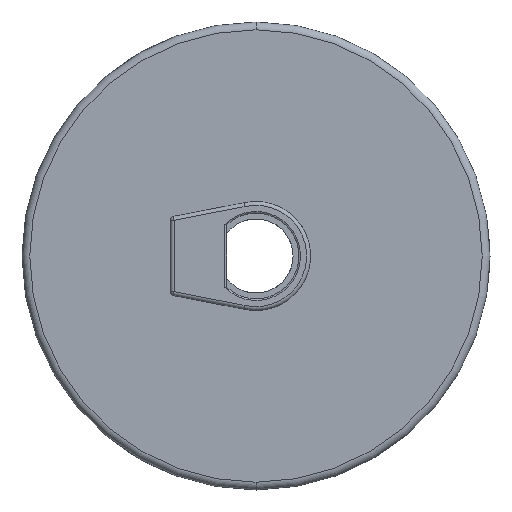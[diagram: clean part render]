
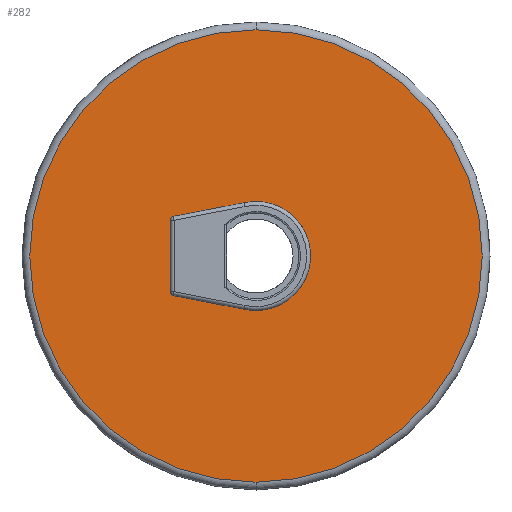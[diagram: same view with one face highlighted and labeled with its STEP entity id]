
A CAD part, front view. The second image highlights one B-rep face of the part: STEP entity #282.
In plain terms, the highlighted planar face has unit normal (0, -1, 0).
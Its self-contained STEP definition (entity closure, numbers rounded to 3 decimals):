
#16 = AXIS2_PLACEMENT_3D ( 'NONE', #1089, #3069, #113 ) ;
#72 = VERTEX_POINT ( 'NONE', #2601 ) ;
#98 = CARTESIAN_POINT ( 'NONE',  ( 0., 0., 6.6 ) ) ;
#104 = DIRECTION ( 'NONE',  ( 0., -1., 0. ) ) ;
#113 = DIRECTION ( 'NONE',  ( 0., 0., -1. ) ) ;
#116 = CARTESIAN_POINT ( 'NONE',  ( 0., 0., 29. ) ) ;
#268 = FACE_OUTER_BOUND ( 'NONE', #1053, .T. ) ;
#282 = ADVANCED_FACE ( 'NONE', ( #1569, #268 ), #2561, .T. ) ;
#297 = CARTESIAN_POINT ( 'NONE',  ( 0., 0., 0. ) ) ;
#326 = DIRECTION ( 'NONE',  ( 0., 0., -1. ) ) ;
#413 = DIRECTION ( 'NONE',  ( 0., 0., -1. ) ) ;
#464 = EDGE_CURVE ( 'NONE', #2696, #1385, #920, .T. ) ;
#591 = CIRCLE ( 'NONE', #16, 6.6 ) ;
#774 = ORIENTED_EDGE ( 'NONE', *, *, #998, .F. ) ;
#816 = EDGE_CURVE ( 'NONE', #1385, #2696, #1214, .T. ) ;
#843 = CARTESIAN_POINT ( 'NONE',  ( 0., 0., -29. ) ) ;
#920 = CIRCLE ( 'NONE', #1173, 29. ) ;
#998 = EDGE_CURVE ( 'NONE', #1778, #72, #1307, .T. ) ;
#1053 = EDGE_LOOP ( 'NONE', ( #2683, #2486 ) ) ;
#1089 = CARTESIAN_POINT ( 'NONE',  ( 0., 0., 0. ) ) ;
#1173 = AXIS2_PLACEMENT_3D ( 'NONE', #2648, #1184, #1945 ) ;
#1184 = DIRECTION ( 'NONE',  ( 0., -1., 0. ) ) ;
#1214 = CIRCLE ( 'NONE', #1785, 29. ) ;
#1307 = CIRCLE ( 'NONE', #1939, 6.6 ) ;
#1385 = VERTEX_POINT ( 'NONE', #843 ) ;
#1395 = CARTESIAN_POINT ( 'NONE',  ( 0., 0., 0. ) ) ;
#1569 = FACE_BOUND ( 'NONE', #2347, .T. ) ;
#1726 = DIRECTION ( 'NONE',  ( 0., -1., 0. ) ) ;
#1778 = VERTEX_POINT ( 'NONE', #98 ) ;
#1785 = AXIS2_PLACEMENT_3D ( 'NONE', #297, #1726, #2237 ) ;
#1864 = EDGE_CURVE ( 'NONE', #72, #1778, #591, .T. ) ;
#1939 = AXIS2_PLACEMENT_3D ( 'NONE', #1395, #2915, #413 ) ;
#1945 = DIRECTION ( 'NONE',  ( 0., 0., -1. ) ) ;
#2012 = AXIS2_PLACEMENT_3D ( 'NONE', #2015, #104, #326 ) ;
#2015 = CARTESIAN_POINT ( 'NONE',  ( 0., 0., 0. ) ) ;
#2237 = DIRECTION ( 'NONE',  ( 0., 0., -1. ) ) ;
#2347 = EDGE_LOOP ( 'NONE', ( #774, #3007 ) ) ;
#2486 = ORIENTED_EDGE ( 'NONE', *, *, #464, .T. ) ;
#2561 = PLANE ( 'NONE',  #2012 ) ;
#2601 = CARTESIAN_POINT ( 'NONE',  ( 0., 0., -6.6 ) ) ;
#2648 = CARTESIAN_POINT ( 'NONE',  ( 0., 0., 0. ) ) ;
#2683 = ORIENTED_EDGE ( 'NONE', *, *, #816, .T. ) ;
#2696 = VERTEX_POINT ( 'NONE', #116 ) ;
#2915 = DIRECTION ( 'NONE',  ( 0., -1., 0. ) ) ;
#3007 = ORIENTED_EDGE ( 'NONE', *, *, #1864, .F. ) ;
#3069 = DIRECTION ( 'NONE',  ( 0., -1., 0. ) ) ;
